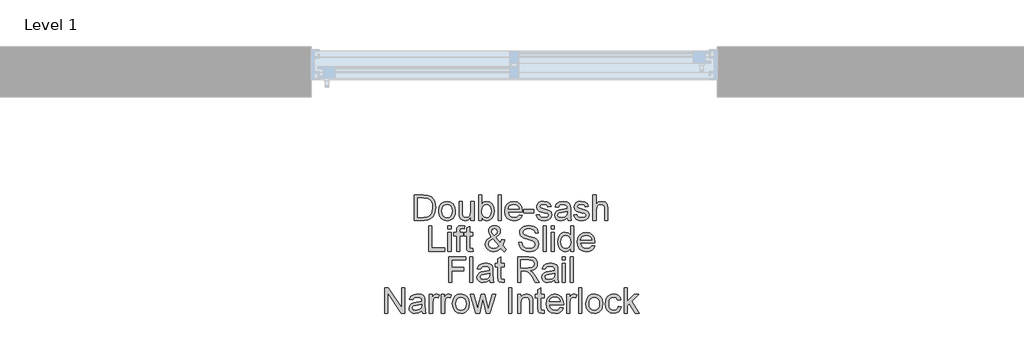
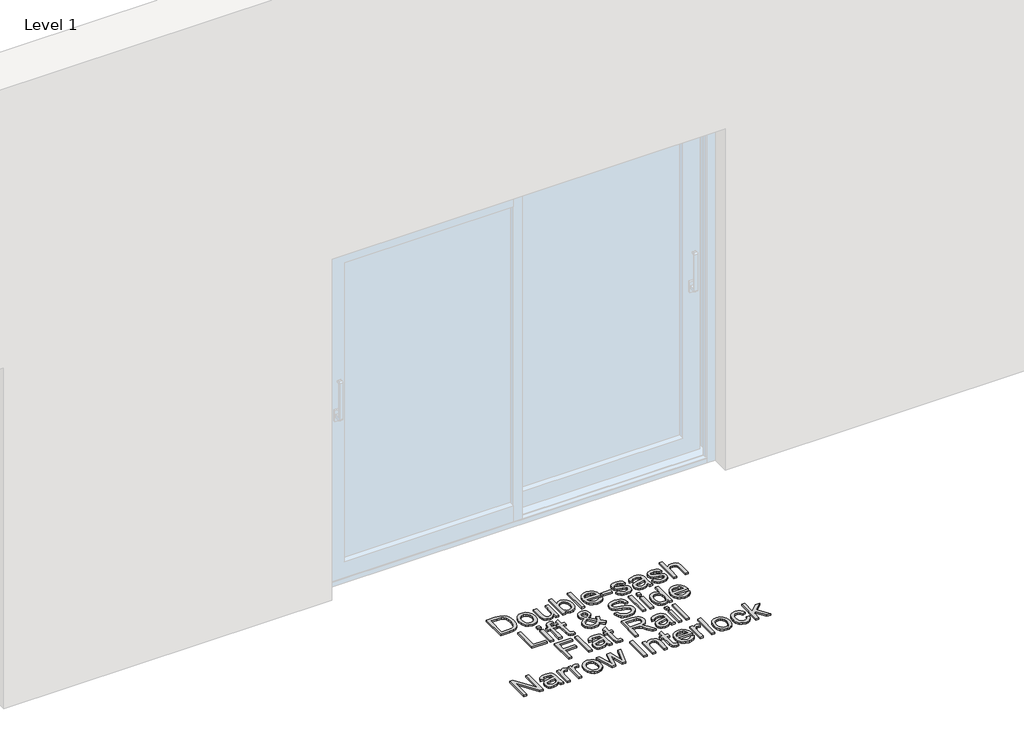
# One storey, part 2 of 7: 1 proxy.
"""IFC4 building model written with IfcOpenShell, lengths in millimetres."""

from ifc_helpers import new_model, si_unit, origin, origin_with_axes, place, context, project, spatial, polyline, outline, extrude, element, save

model = new_model("IFC4")

# Units and contexts
model_context = context("Model", 3, world=origin())
ifc_project = project(units=[si_unit("LENGTHUNIT", "METRE", prefix="MILLI")], contexts=[model_context])

# Site, building, storey
site = spatial("IfcSite", under=ifc_project)
building = spatial("IfcBuilding", under=site)
storey = spatial("IfcBuildingStorey", under=building, Name="Level 1", Elevation=0.0)

# Proxy
placement = place(None, origin())
element("IfcBuildingElementProxy", 1, Name="150mm Arial", ObjectType="150mm Arial", at=placement, inside=storey, context=model_context, shape_type="SweptSolid", body=[
    extrude(outline(polyline([(-1811.5990485, -897.6627533), (-1811.5990485, -746.9782881), (-1759.6173226, -746.9782881), (-1732.7251487, -749.1487919), (-1710.5786526, -759.9277343), (-1700.1583951, -771.4056526), (-1692.7363758, -785.679474), (-1688.2942007, -802.4732871), (-1686.8134757, -821.5111803), (-1690.8233895, -851.9166272), (-1701.1240853, -873.8607883), (-1714.8828719, -887.5276044), (-1732.8906956, -895.0875794), (-1757.115725, -897.6627533), (-1811.5990485, -897.6627533)]), holes=[polyline([(-1792.7634903, -878.8271952), (-1759.4333816, -878.8271952), (-1735.1899581, -876.1048684), (-1721.2104423, -868.4161347), (-1709.7509181, -849.7093353), (-1705.6490339, -821.2168747), (-1707.6585893, -800.6890594), (-1713.6872555, -785.5323212), (-1722.5945983, -775.1212607), (-1733.2401835, -768.8304786), (-1759.9484164, -765.8138463), (-1792.7634903, -765.8138463), (-1792.7634903, -878.8271952)])]), origin_with_axes(), (0.0, 0.0, 1.0), 10.0),
    extrude(outline(polyline([(-1667.9779176, -842.3333013), (-1663.9036245, -815.6526596), (-1651.6807452, -796.8998749), (-1636.5791893, -787.712022), (-1618.4977892, -784.6494044), (-1598.7103364, -788.3788081), (-1582.9052062, -799.5670193), (-1572.5447295, -817.3311212), (-1569.0912373, -840.7881969), (-1570.6179475, -859.8168931), (-1575.1980784, -874.3022466), (-1582.6982726, -885.150167), (-1592.9851728, -893.2665635), (-1605.2034536, -898.3295395), (-1618.4977892, -900.0171981), (-1638.5243653, -896.30159), (-1654.3111014, -885.1547655), (-1664.5612135, -867.0181831), (-1667.9779176, -842.3333013)]), holes=[polyline([(-1649.1423594, -842.2965131), (-1646.9626586, -859.343245), (-1640.4235561, -871.4879494), (-1630.5827127, -878.7582173), (-1618.4977892, -881.18164), (-1606.468048, -878.7444217), (-1596.6455987, -871.4327671), (-1590.1064962, -859.1271143), (-1587.9267954, -841.7079019), (-1590.1202918, -825.1578106), (-1596.700781, -813.1786531), (-1606.5370258, -805.9083852), (-1618.4977892, -803.4849626), (-1630.5827127, -805.8991882), (-1640.4235561, -813.141865), (-1646.9626586, -825.2589782), (-1649.1423594, -842.2965131)])]), origin_with_axes(), (0.0, 0.0, 1.0), 10.0),
    extrude(outline(polyline([(-1477.2678913, -897.6627533), (-1477.2678913, -878.6432542), (-1492.0199593, -894.6737121), (-1511.2601876, -900.0171981), (-1528.9737057, -896.2648018), (-1541.1873879, -886.8470227), (-1546.7975883, -872.9778715), (-1547.9012343, -855.4666885), (-1547.9012343, -787.0038492), (-1529.0656762, -787.0038492), (-1529.0656762, -846.6007324), (-1527.925242, -865.8041726), (-1520.4756316, -877.0797557), (-1506.4409335, -881.18164), (-1490.7139782, -876.9877852), (-1480.3213118, -865.5650493), (-1477.2678913, -844.5773814), (-1477.2678913, -787.0038492), (-1458.4323331, -787.0038492), (-1458.4323331, -897.6627533), (-1477.2678913, -897.6627533)])), origin_with_axes(), (0.0, 0.0, 1.0), 10.0),
    extrude(outline(polyline([(-1413.6978825, -897.6627533), (-1432.5334406, -897.6627533), (-1432.5334406, -746.9782881), (-1413.6978825, -746.9782881), (-1413.6978825, -802.8595632), (-1400.509313, -789.2019441), (-1384.1201701, -784.6494044), (-1365.2478237, -788.7512887), (-1350.6061203, -800.2843892), (-1341.6114055, -818.2186365), (-1338.3556499, -840.6778323), (-1341.7263687, -865.8225667), (-1351.838525, -884.5293661), (-1366.677965, -896.1452401), (-1384.2305347, -900.0171981), (-1400.9783625, -895.0232), (-1413.6978825, -880.0412058), (-1413.6978825, -897.6627533)]), holes=[polyline([(-1413.6978825, -841.5607491), (-1412.4102955, -857.2693103), (-1408.5475346, -867.9010999), (-1398.6791, -877.861505), (-1385.8492155, -881.18164), (-1374.9783025, -878.7352247), (-1365.6892821, -871.3959789), (-1359.3157266, -859.2098878), (-1357.191208, -842.2229367), (-1359.2283546, -824.9876652), (-1365.3397942, -812.9395299), (-1374.3391075, -805.8486044), (-1385.0398751, -803.4849626), (-1395.910788, -805.9313778), (-1405.1998084, -813.2706236), (-1411.573364, -825.2359855), (-1413.6978825, -841.5607491)])]), origin_with_axes(), (0.0, 0.0, 1.0), 10.0),
    extrude(outline(polyline([(-1317.165647, -897.6627533), (-1317.165647, -746.9782881), (-1298.3300888, -746.9782881), (-1298.3300888, -897.6627533), (-1317.165647, -897.6627533)])), origin_with_axes(), (0.0, 0.0, 1.0), 10.0),
    extrude(outline(polyline([(-1192.6008034, -864.7005266), (-1174.1331272, -867.0549713), (-1180.7871928, -880.9701078), (-1191.4051869, -891.3719712), (-1205.7479862, -897.8558914), (-1223.5764674, -900.0171981), (-1245.6769782, -896.2877944), (-1262.6823235, -885.0995832), (-1273.5256453, -867.1791315), (-1277.1400859, -843.2530063), (-1273.4888571, -818.5221391), (-1262.5351707, -800.0268718), (-1245.7597517, -788.4937713), (-1224.6433252, -784.6494044), (-1204.1844877, -788.4845742), (-1187.8367316, -799.9900836), (-1177.1175699, -818.4485627), (-1173.544516, -843.1426417), (-1173.6548806, -848.2194132), (-1258.3045277, -848.2194132), (-1255.0441735, -862.3184907), (-1247.470403, -872.6835659), (-1236.5397092, -879.0571214), (-1223.2085854, -881.18164), (-1204.7409092, -877.2453026), (-1192.6008034, -864.7005266)]), holes=[polyline([(-1258.3045277, -829.383855), (-1192.3800742, -829.383855), (-1194.927657, -819.4326471), (-1199.9216551, -812.3141305), (-1210.9029326, -805.6922545), (-1224.7169016, -803.4849626), (-1237.4134289, -805.2461976), (-1247.9118614, -810.5299028), (-1255.2097204, -818.765861), (-1258.3045277, -829.383855)])]), origin_with_axes(), (0.0, 0.0, 1.0), 10.0),
    extrude(outline(polyline([(-1164.126737, -852.9283027), (-1164.126737, -834.0927446), (-1105.2656177, -834.0927446), (-1105.2656177, -852.9283027), (-1164.126737, -852.9283027)])), origin_with_axes(), (0.0, 0.0, 1.0), 10.0),
    extrude(outline(polyline([(-1091.1389491, -864.7005266), (-1072.303391, -862.3460818), (-1069.3327439, -870.4026975), (-1063.5845877, -876.3255976), (-1043.6085953, -881.18164), (-1024.4051552, -876.7302678), (-1018.1511613, -866.2824192), (-1019.7238568, -861.4815591), (-1024.4419434, -857.8211333), (-1043.8293245, -852.4500561), (-1072.1930264, -843.2346122), (-1084.5722555, -832.4740638), (-1088.7845044, -817.2805374), (-1085.39999, -803.2458393), (-1076.1661519, -792.5220791), (-1064.191593, -786.9486669), (-1047.9863911, -784.6494044), (-1025.0673428, -788.3466185), (-1010.4992158, -798.3530087), (-1004.0244927, -815.2571864), (-1022.8600508, -817.6116312), (-1029.9417792, -807.2189648), (-1046.5148631, -803.4849626), (-1064.5410809, -807.0534179), (-1069.9489462, -815.367551), (-1067.704866, -820.8489927), (-1060.6783199, -825.0060593), (-1044.4547239, -829.015973), (-1016.808392, -837.8819291), (-1003.9693104, -847.9251076), (-999.3156031, -864.2958564), (-1004.7786508, -882.3220741), (-1020.5423942, -895.4002791), (-1043.8661127, -900.0171981), (-1062.8580207, -897.791512), (-1076.7179749, -891.1144538), (-1085.9702071, -880.0595999), (-1091.1389491, -864.7005266)])), origin_with_axes(), (0.0, 0.0, 1.0), 10.0),
    extrude(outline(polyline([(-907.4922571, -883.5360847), (-925.7575982, -896.30159), (-945.9359256, -900.0171981), (-961.6766765, -897.782315), (-973.287952, -891.0776656), (-980.4478553, -880.8965314), (-982.8344897, -868.2321937), (-979.2292462, -853.3329729), (-969.7562848, -842.5172423), (-956.5677153, -836.3368247), (-940.2705429, -833.5041334), (-907.6026217, -827.0294103), (-907.4922571, -822.8355555), (-908.7890412, -814.4294519), (-912.6793933, -808.9296161), (-921.3798024, -804.846126), (-933.5015142, -803.4849626), (-952.5578015, -807.1086002), (-961.6444868, -819.966076), (-980.480045, -817.6116312), (-972.3314588, -799.2175314), (-955.9239218, -788.438589), (-931.073493, -784.6494044), (-908.2464152, -787.9971306), (-895.3521513, -796.4032342), (-889.576404, -809.1871335), (-888.656699, -825.6682469), (-888.656699, -849.10233), (-887.7002058, -881.8254334), (-883.9478094, -897.6627533), (-902.7833676, -897.6627533), (-907.4922571, -883.5360847)]), holes=[polyline([(-907.4922571, -845.8649684), (-937.8793099, -851.6407157), (-954.0845118, -854.6941363), (-961.4237576, -859.6605432), (-963.9989316, -866.9078185), (-958.3887312, -877.0981498), (-941.9260119, -881.18164), (-922.8697245, -876.6750855), (-910.5824659, -865.7673844), (-907.6026217, -851.1992574), (-907.4922571, -845.8649684)])]), origin_with_axes(), (0.0, 0.0, 1.0), 10.0),
    extrude(outline(polyline([(-869.8211408, -864.7005266), (-850.9855827, -862.3460818), (-848.0149356, -870.4026975), (-842.2667794, -876.3255976), (-822.290787, -881.18164), (-803.0873469, -876.7302678), (-796.833353, -866.2824192), (-798.4060485, -861.4815591), (-803.1241351, -857.8211333), (-822.5115162, -852.4500561), (-850.8752181, -843.2346122), (-863.2544472, -832.4740638), (-867.4666961, -817.2805374), (-864.0821817, -803.2458393), (-854.8483436, -792.5220791), (-842.8737847, -786.9486669), (-826.6685828, -784.6494044), (-803.7495345, -788.3466185), (-789.1814075, -798.3530087), (-782.7066844, -815.2571864), (-801.5422425, -817.6116312), (-808.6239709, -807.2189648), (-825.1970548, -803.4849626), (-843.2232726, -807.0534179), (-848.6311379, -815.367551), (-846.3870577, -820.8489927), (-839.3605116, -825.0060593), (-823.1369156, -829.015973), (-795.4905837, -837.8819291), (-782.6515021, -847.9251076), (-777.9977948, -864.2958564), (-783.4608425, -882.3220741), (-799.2245859, -895.4002791), (-822.5483044, -900.0171981), (-841.5402124, -897.791512), (-855.4001666, -891.1144538), (-864.6523988, -880.0595999), (-869.8211408, -864.7005266)])), origin_with_axes(), (0.0, 0.0, 1.0), 10.0),
    extrude(outline(polyline([(-756.8077919, -897.6627533), (-756.8077919, -746.9782881), (-737.9722338, -746.9782881), (-737.9722338, -802.3813166), (-723.2845451, -789.0823825), (-705.193948, -784.6494044), (-684.0407333, -789.4870527), (-671.2016516, -802.8595632), (-667.3388907, -827.6180215), (-667.3388907, -897.6627533), (-686.1744488, -897.6627533), (-686.1744488, -829.567796), (-687.673568, -817.7771781), (-692.1709254, -809.7021683), (-699.4182007, -805.039264), (-709.1670735, -803.4849626), (-724.5997232, -807.6788173), (-734.9004191, -819.046371), (-737.9722338, -838.8752105), (-737.9722338, -897.6627533), (-756.8077919, -897.6627533)])), origin_with_axes(), (0.0, 0.0, 1.0), 10.0),
    extrude(outline(polyline([(-1726.8390368, -1080.6249801), (-1726.8390368, -929.9405149), (-1708.0034786, -929.9405149), (-1708.0034786, -1061.789422), (-1632.661246, -1061.789422), (-1632.661246, -1080.6249801), (-1726.8390368, -1080.6249801)])), origin_with_axes(), (0.0, 0.0, 1.0), 10.0),
    extrude(outline(polyline([(-1613.8256879, -948.776073), (-1613.8256879, -929.9405149), (-1594.9901297, -929.9405149), (-1594.9901297, -948.776073), (-1613.8256879, -948.776073)])), origin_with_axes(), (0.0, 0.0, 1.0), 10.0),
    extrude(outline(polyline([(-1613.8256879, -1080.6249801), (-1613.8256879, -969.966076), (-1594.9901297, -969.966076), (-1594.9901297, -1080.6249801), (-1613.8256879, -1080.6249801)])), origin_with_axes(), (0.0, 0.0, 1.0), 10.0),
    extrude(outline(polyline([(-1562.0279029, -1080.6249801), (-1562.0279029, -988.8016341), (-1578.5090163, -988.8016341), (-1578.5090163, -969.966076), (-1562.0279029, -969.966076), (-1562.0279029, -958.8192515), (-1560.0413402, -943.1106903), (-1550.4028319, -931.8902895), (-1531.4201209, -927.5860701), (-1514.2400318, -929.6462093), (-1516.9991467, -947.3045451), (-1527.8516656, -946.4216283), (-1539.7158599, -949.5486252), (-1543.1923448, -961.2104845), (-1543.1923448, -969.966076), (-1522.0023419, -969.966076), (-1522.0023419, -988.8016341), (-1543.1923448, -988.8016341), (-1543.1923448, -1080.6249801), (-1562.0279029, -1080.6249801)])), origin_with_axes(), (0.0, 0.0, 1.0), 10.0),
    extrude(outline(polyline([(-1465.4956674, -1064.9164189), (-1463.1412226, -1081.1768031), (-1477.2311031, -1082.9794249), (-1493.0132407, -1079.8524279), (-1500.8859153, -1071.6486594), (-1503.1667837, -1050.2747155), (-1503.1667837, -988.8016341), (-1517.2934523, -988.8016341), (-1517.2934523, -969.966076), (-1503.1667837, -969.966076), (-1503.1667837, -943.0739021), (-1484.3312256, -932.0006541), (-1484.3312256, -969.966076), (-1465.4956674, -969.966076), (-1465.4956674, -988.8016341), (-1484.3312256, -988.8016341), (-1484.3312256, -1049.7228925), (-1483.3379442, -1059.4349772), (-1480.1189767, -1062.8746738), (-1473.6994359, -1064.1438667), (-1465.4956674, -1064.9164189)])), origin_with_axes(), (0.0, 0.0, 1.0), 10.0),
    extrude(outline(polyline([(-1301.3835094, -1062.0101512), (-1321.3595017, -1077.7371064), (-1344.7200084, -1082.9794249), (-1365.5053411, -1079.0982698), (-1381.5082079, -1067.4548047), (-1389.7579617, -1054.054703), (-1392.5078796, -1039.1646793), (-1390.2959891, -1025.9669127), (-1383.6603176, -1014.1119154), (-1372.6284563, -1003.6088844), (-1357.2279962, -994.4670168), (-1370.3797776, -975.4107295), (-1373.6723214, -961.2840609), (-1371.0787533, -948.5645409), (-1363.2980492, -937.6292486), (-1351.5902047, -930.0968647), (-1337.2152157, -927.5860701), (-1323.5392025, -929.9865001), (-1312.6039102, -937.1877902), (-1305.4302113, -947.7552005), (-1303.0389783, -960.2539913), (-1304.8094104, -970.7478252), (-1310.1207067, -980.4507128), (-1331.365892, -997.4836492), (-1304.1058361, -1031.4391574), (-1295.975644, -1010.5802482), (-1277.1400859, -1014.6637384), (-1290.4574141, -1045.6761906), (-1267.7223068, -1068.4848743), (-1281.8489754, -1082.9794249), (-1301.3835094, -1062.0101512)]), holes=[polyline([(-1340.8940356, -985.6010608), (-1325.4062036, -973.9208074), (-1321.8745365, -962.8291653), (-1326.5282437, -951.0017591), (-1338.1717089, -946.4216283), (-1350.0726914, -950.9649709), (-1354.8367633, -962.0566131), (-1353.2180825, -968.9544005), (-1348.3252519, -976.6247401), (-1340.8940356, -985.6010608)]), polyline([(-1314.0018618, -1048.4353055), (-1347.6262762, -1006.4599699), (-1368.3196384, -1022.2421075), (-1373.6723214, -1036.6630817), (-1371.8421085, -1045.5474319), (-1366.3514697, -1054.7628758), (-1357.5039077, -1061.798619), (-1345.6029252, -1064.1438667), (-1328.2940773, -1059.766071), (-1314.0018618, -1048.4353055)])]), origin_with_axes(), (0.0, 0.0, 1.0), 10.0),
    extrude(outline(polyline([(-1194.734519, -1028.8271952), (-1175.8989608, -1028.8271952), (-1169.8289079, -1047.6811474), (-1155.0032635, -1059.6005241), (-1132.415309, -1064.1438667), (-1112.7336222, -1060.7041701), (-1100.0232993, -1051.2496028), (-1095.8478387, -1038.6128563), (-1098.9748356, -1026.8590265), (-1111.777129, -1018.3057701), (-1139.2027318, -1011.1136771), (-1168.7252619, -1001.8246567), (-1184.7465228, -987.8083527), (-1190.0256294, -969.0831592), (-1188.3931531, -958.0512978), (-1183.495724, -947.7643976), (-1175.4621009, -939.0455943), (-1164.4210426, -932.7180239), (-1136.4987991, -927.5860701), (-1106.7003575, -932.9571472), (-1095.2776216, -939.5882202), (-1086.8347298, -948.7392848), (-1081.4912438, -959.840124), (-1079.3667253, -972.3205207), (-1098.2022834, -972.3205207), (-1101.6603742, -961.0817258), (-1108.8708613, -952.9699278), (-1120.1372474, -948.0587031), (-1135.7630351, -946.4216283), (-1151.7567049, -948.040309), (-1162.7287854, -952.8963514), (-1169.0747498, -960.0424591), (-1171.1900713, -968.5313362), (-1169.6909521, -975.7694144), (-1165.1935947, -981.591147), (-1134.43866, -992.1125721), (-1101.1085512, -1001.5671393), (-1090.3709955, -1008.4005474), (-1082.8799983, -1016.8342421), (-1078.47921, -1026.7762531), (-1077.0122805, -1038.1346097), (-1078.6999392, -1049.7458851), (-1083.7629151, -1060.6673819), (-1091.9942748, -1070.0667668), (-1103.1870845, -1077.1117071), (-1116.646967, -1081.5124954), (-1131.679545, -1082.9794249), (-1150.1334256, -1081.3975323), (-1165.3223534, -1076.6518546), (-1177.4210726, -1068.7239976), (-1186.6043269, -1057.5955672), (-1192.4996358, -1044.0391157), (-1194.734519, -1028.8271952)])), origin_with_axes(), (0.0, 0.0, 1.0), 10.0),
    extrude(outline(polyline([(-1051.113388, -1080.6249801), (-1051.113388, -929.9405149), (-1032.2778299, -929.9405149), (-1032.2778299, -1080.6249801), (-1051.113388, -1080.6249801)])), origin_with_axes(), (0.0, 0.0, 1.0), 10.0),
    extrude(outline(polyline([(-1004.0244927, -948.776073), (-1004.0244927, -929.9405149), (-985.1889345, -929.9405149), (-985.1889345, -948.776073), (-1004.0244927, -948.776073)])), origin_with_axes(), (0.0, 0.0, 1.0), 10.0),
    extrude(outline(polyline([(-1004.0244927, -1080.6249801), (-1004.0244927, -969.966076), (-985.1889345, -969.966076), (-985.1889345, -1080.6249801), (-1004.0244927, -1080.6249801)])), origin_with_axes(), (0.0, 0.0, 1.0), 10.0),
    extrude(outline(polyline([(-888.656699, -1080.6249801), (-888.656699, -1062.8562797), (-901.1187016, -1077.9486386), (-918.344776, -1082.9794249), (-930.52167, -1081.158409), (-941.6684945, -1075.6953614), (-951.1046677, -1066.9719596), (-958.1496079, -1055.3698811), (-962.5366007, -1041.3581756), (-963.9989316, -1025.4058926), (-958.6094604, -995.42351), (-951.8772198, -983.5317245), (-942.4594408, -974.7853301), (-931.0688945, -969.4050559), (-918.4183524, -967.6116312), (-901.0543222, -972.743585), (-888.656699, -986.0793073), (-888.656699, -929.9405149), (-869.8211408, -929.9405149), (-869.8211408, -1080.6249801), (-888.656699, -1080.6249801)]), holes=[polyline([(-945.1633734, -1025.3323162), (-943.0388549, -1042.3698511), (-936.6652993, -1054.4869644), (-927.4038701, -1061.7296411), (-916.6157306, -1064.1438667), (-905.8321896, -1061.8400057), (-896.8052852, -1054.9284227), (-890.6938455, -1043.2803591), (-888.656699, -1026.767056), (-890.7306337, -1008.7132471), (-896.952438, -996.1960622), (-906.2092687, -988.8844076), (-917.3882828, -986.4471893), (-928.2867869, -988.7878385), (-937.2171223, -995.8097861), (-943.1768107, -1007.871717), (-945.1633734, -1025.3323162)])]), origin_with_axes(), (0.0, 0.0, 1.0), 10.0),
    extrude(outline(polyline([(-764.0918554, -1047.6627533), (-745.6241792, -1050.0171981), (-752.2782448, -1063.9323346), (-762.8962389, -1074.334198), (-777.2390382, -1080.8181182), (-795.0675194, -1082.9794249), (-817.1680303, -1079.2500212), (-834.1733755, -1068.06181), (-845.0166973, -1050.1413583), (-848.6311379, -1026.215233), (-844.9799091, -1001.4843659), (-834.0262227, -982.9890986), (-817.2508037, -971.455998), (-796.1343772, -967.6116312), (-775.6755397, -971.446801), (-759.3277836, -982.9523104), (-748.6086219, -1001.4107895), (-745.0355681, -1026.1048684), (-745.1459327, -1031.18164), (-829.7955797, -1031.18164), (-826.5352256, -1045.2807174), (-818.961455, -1055.6457926), (-808.0307612, -1062.0193482), (-794.6996374, -1064.1438667), (-776.2319612, -1060.2075294), (-764.0918554, -1047.6627533)]), holes=[polyline([(-829.7955797, -1012.3460818), (-763.8711262, -1012.3460818), (-766.418709, -1002.3948738), (-771.4127071, -995.2763572), (-782.3939847, -988.6544813), (-796.2079536, -986.4471893), (-808.9044809, -988.2084244), (-819.4029134, -993.4921296), (-826.7007725, -1001.7280877), (-829.7955797, -1012.3460818)])]), origin_with_axes(), (0.0, 0.0, 1.0), 10.0),
    extrude(outline(polyline([(-1609.1167983, -1263.5872069), (-1609.1167983, -1112.9027417), (-1507.8756733, -1112.9027417), (-1507.8756733, -1131.7382998), (-1590.2812402, -1131.7382998), (-1590.2812402, -1176.4727504), (-1519.6478971, -1176.4727504), (-1519.6478971, -1195.3083086), (-1590.2812402, -1195.3083086), (-1590.2812402, -1263.5872069), (-1609.1167983, -1263.5872069)])), origin_with_axes(), (0.0, 0.0, 1.0), 10.0),
    extrude(outline(polyline([(-1484.3312256, -1263.5872069), (-1484.3312256, -1112.9027417), (-1465.4956674, -1112.9027417), (-1465.4956674, -1263.5872069), (-1484.3312256, -1263.5872069)])), origin_with_axes(), (0.0, 0.0, 1.0), 10.0),
    extrude(outline(polyline([(-1366.6089871, -1249.4605383), (-1384.8743282, -1262.2260435), (-1405.0526556, -1265.9416516), (-1420.7934065, -1263.7067685), (-1432.4046819, -1257.0021192), (-1439.5645853, -1246.8209849), (-1441.9512197, -1234.1566473), (-1438.3459762, -1219.2574265), (-1428.8730148, -1208.4416958), (-1415.6844453, -1202.2612783), (-1399.3872729, -1199.4285869), (-1366.7193517, -1192.9538638), (-1366.6089871, -1188.7600091), (-1367.9057711, -1180.3539055), (-1371.7961232, -1174.8540696), (-1380.4965324, -1170.7705795), (-1392.6182442, -1169.4094161), (-1411.6745315, -1173.0330538), (-1420.7612168, -1185.8905295), (-1439.596775, -1183.5360847), (-1431.4481888, -1165.141985), (-1415.0406518, -1154.3630425), (-1390.190223, -1150.573858), (-1367.3631452, -1153.9215841), (-1354.4688813, -1162.3276877), (-1348.6931339, -1175.111587), (-1347.773429, -1191.5927004), (-1347.773429, -1215.0267835), (-1346.8169358, -1247.749887), (-1343.0645394, -1263.5872069), (-1361.9000976, -1263.5872069), (-1366.6089871, -1249.4605383)]), holes=[polyline([(-1366.6089871, -1211.789422), (-1396.9960399, -1217.5651693), (-1413.2012418, -1220.6185898), (-1420.5404876, -1225.5849968), (-1423.1156616, -1232.8322721), (-1417.5054611, -1243.0226033), (-1401.0427419, -1247.1060935), (-1381.9864545, -1242.5995391), (-1369.6991959, -1231.6918379), (-1366.7193517, -1217.1237109), (-1366.6089871, -1211.789422)])]), origin_with_axes(), (0.0, 0.0, 1.0), 10.0),
    extrude(outline(polyline([(-1281.8489754, -1247.8786457), (-1279.4945307, -1264.1390299), (-1293.5844111, -1265.9416516), (-1309.3665487, -1262.8146547), (-1317.2392234, -1254.6108862), (-1319.5200917, -1233.2369423), (-1319.5200917, -1171.7638609), (-1333.6467603, -1171.7638609), (-1333.6467603, -1152.9283027), (-1319.5200917, -1152.9283027), (-1319.5200917, -1126.0361289), (-1300.6845336, -1114.9628808), (-1300.6845336, -1152.9283027), (-1281.8489754, -1152.9283027), (-1281.8489754, -1171.7638609), (-1300.6845336, -1171.7638609), (-1300.6845336, -1232.6851193), (-1299.6912522, -1242.397204), (-1296.4722847, -1245.8369006), (-1290.0527439, -1247.1060935), (-1281.8489754, -1247.8786457)])), origin_with_axes(), (0.0, 0.0, 1.0), 10.0),
    extrude(outline(polyline([(-1201.7978533, -1263.5872069), (-1201.7978533, -1112.9027417), (-1136.8666811, -1112.9027417), (-1106.7187516, -1116.9678377), (-1097.4389283, -1122.5964322), (-1090.2376382, -1131.3520237), (-1085.6161207, -1142.2091411), (-1084.0756148, -1154.1423133), (-1086.6277962, -1168.9863518), (-1094.2843402, -1181.2920046), (-1107.2751731, -1190.3143105), (-1125.8302213, -1195.3083086), (-1115.1248552, -1203.3649243), (-1099.8577524, -1222.7523054), (-1074.7314121, -1263.5872069), (-1096.6203908, -1263.5872069), (-1116.2285012, -1232.3540255), (-1130.391958, -1211.6790574), (-1140.343166, -1201.9117904), (-1149.3010926, -1198.3249409), (-1160.2271878, -1197.6627533), (-1182.9622951, -1197.6627533), (-1182.9622951, -1263.5872069), (-1201.7978533, -1263.5872069)]), holes=[polyline([(-1182.9622951, -1178.8271952), (-1140.8030185, -1178.8271952), (-1119.3003159, -1176.1600507), (-1107.0866336, -1167.6251884), (-1102.911173, -1154.8412891), (-1104.9023343, -1145.6534363), (-1110.8758182, -1138.2498111), (-1121.1535214, -1133.3661776), (-1136.0573407, -1131.7382998), (-1182.9622951, -1131.7382998), (-1182.9622951, -1178.8271952)])]), origin_with_axes(), (0.0, 0.0, 1.0), 10.0),
    extrude(outline(polyline([(-982.8344897, -1249.4605383), (-1001.0998308, -1262.2260435), (-1021.2781582, -1265.9416516), (-1037.0189091, -1263.7067685), (-1048.6301846, -1257.0021192), (-1055.7900879, -1246.8209849), (-1058.1767224, -1234.1566473), (-1054.5714788, -1219.2574265), (-1045.0985174, -1208.4416958), (-1031.9099479, -1202.2612783), (-1015.6127755, -1199.4285869), (-982.9448543, -1192.9538638), (-982.8344897, -1188.7600091), (-984.1312738, -1180.3539055), (-988.0216259, -1174.8540696), (-996.7220351, -1170.7705795), (-1008.8437468, -1169.4094161), (-1027.9000341, -1173.0330538), (-1036.9867194, -1185.8905295), (-1055.8222776, -1183.5360847), (-1047.6736914, -1165.141985), (-1031.2661544, -1154.3630425), (-1006.4157256, -1150.573858), (-983.5886478, -1153.9215841), (-970.6943839, -1162.3276877), (-964.9186366, -1175.111587), (-963.9989316, -1191.5927004), (-963.9989316, -1215.0267835), (-963.0424384, -1247.749887), (-959.290042, -1263.5872069), (-978.1256002, -1263.5872069), (-982.8344897, -1249.4605383)]), holes=[polyline([(-982.8344897, -1211.789422), (-1013.2215425, -1217.5651693), (-1029.4267444, -1220.6185898), (-1036.7659902, -1225.5849968), (-1039.3411642, -1232.8322721), (-1033.7309638, -1243.0226033), (-1017.2682445, -1247.1060935), (-998.2119571, -1242.5995391), (-985.9246985, -1231.6918379), (-982.9448543, -1217.1237109), (-982.8344897, -1211.789422)])]), origin_with_axes(), (0.0, 0.0, 1.0), 10.0),
    extrude(outline(polyline([(-938.1000391, -1131.7382998), (-938.1000391, -1112.9027417), (-919.264481, -1112.9027417), (-919.264481, -1131.7382998), (-938.1000391, -1131.7382998)])), origin_with_axes(), (0.0, 0.0, 1.0), 10.0),
    extrude(outline(polyline([(-938.1000391, -1263.5872069), (-938.1000391, -1152.9283027), (-919.264481, -1152.9283027), (-919.264481, -1263.5872069), (-938.1000391, -1263.5872069)])), origin_with_axes(), (0.0, 0.0, 1.0), 10.0),
    extrude(outline(polyline([(-891.0111437, -1263.5872069), (-891.0111437, -1112.9027417), (-872.1755856, -1112.9027417), (-872.1755856, -1263.5872069), (-891.0111437, -1263.5872069)])), origin_with_axes(), (0.0, 0.0, 1.0), 10.0),
    extrude(outline(polyline([(-1987.0051838, -1446.5494336), (-1987.0051838, -1295.8649684), (-1966.8452504, -1295.8649684), (-1888.1185035, -1415.2426759), (-1888.1185035, -1295.8649684), (-1869.2829453, -1295.8649684), (-1869.2829453, -1446.5494336), (-1889.4428787, -1446.5494336), (-1968.1696256, -1327.134938), (-1968.1696256, -1446.5494336), (-1987.0051838, -1446.5494336)])), origin_with_axes(), (0.0, 0.0, 1.0), 10.0),
    extrude(outline(polyline([(-1768.0418202, -1432.422765), (-1786.3071613, -1445.1882703), (-1806.4854887, -1448.9038784), (-1822.2262396, -1446.6689953), (-1833.8375151, -1439.9643459), (-1840.9974184, -1429.7832117), (-1843.3840529, -1417.118874), (-1839.7788093, -1402.2196532), (-1830.3058479, -1391.4039226), (-1817.1172784, -1385.223505), (-1800.820106, -1382.3908137), (-1768.1521848, -1375.9160906), (-1768.0418202, -1371.7222358), (-1769.3386043, -1363.3161322), (-1773.2289564, -1357.8162964), (-1781.9293656, -1353.7328063), (-1794.0510773, -1352.3716429), (-1813.1073647, -1355.9952805), (-1822.1940499, -1368.8527563), (-1841.0296081, -1366.4983115), (-1832.8810219, -1348.1042117), (-1816.4734849, -1337.3252693), (-1791.6230561, -1333.5360847), (-1768.7959783, -1336.8838109), (-1755.9017144, -1345.2899145), (-1750.1259671, -1358.0738138), (-1749.2062621, -1374.5549272), (-1749.2062621, -1397.9890103), (-1748.2497689, -1430.7121138), (-1744.4973726, -1446.5494336), (-1763.3329307, -1446.5494336), (-1768.0418202, -1432.422765)]), holes=[polyline([(-1768.0418202, -1394.7516487), (-1798.428873, -1400.527396), (-1814.6340749, -1403.5808166), (-1821.9733207, -1408.5472235), (-1824.5484947, -1415.7944988), (-1818.9382943, -1425.9848301), (-1802.475575, -1430.0683203), (-1783.4192876, -1425.5617658), (-1771.132029, -1414.6540647), (-1768.1521848, -1400.0859377), (-1768.0418202, -1394.7516487)])]), origin_with_axes(), (0.0, 0.0, 1.0), 10.0),
    extrude(outline(polyline([(-1723.3073696, -1446.5494336), (-1723.3073696, -1335.8905295), (-1706.8262562, -1335.8905295), (-1706.8262562, -1352.2612783), (-1695.1276088, -1337.1781165), (-1683.355385, -1333.5360847), (-1664.4462504, -1339.3486203), (-1670.7370325, -1356.2344038), (-1683.9807843, -1352.3716429), (-1694.6309681, -1356.087251), (-1701.4183909, -1366.3879469), (-1704.4718115, -1388.3872902), (-1704.4718115, -1446.5494336), (-1723.3073696, -1446.5494336)])), origin_with_axes(), (0.0, 0.0, 1.0), 10.0),
    extrude(outline(polyline([(-1652.6740266, -1446.5494336), (-1652.6740266, -1335.8905295), (-1636.1929132, -1335.8905295), (-1636.1929132, -1352.2612783), (-1624.4942657, -1337.1781165), (-1612.7220419, -1333.5360847), (-1593.8129073, -1339.3486203), (-1600.1036894, -1356.2344038), (-1613.3474413, -1352.3716429), (-1623.997625, -1356.087251), (-1630.7850478, -1366.3879469), (-1633.8384684, -1388.3872902), (-1633.8384684, -1446.5494336), (-1652.6740266, -1446.5494336)])), origin_with_axes(), (0.0, 0.0, 1.0), 10.0),
    extrude(outline(polyline([(-1586.749573, -1391.2199816), (-1582.6752799, -1364.5393399), (-1570.4524006, -1345.7865552), (-1555.3508447, -1336.5987023), (-1537.2694447, -1333.5360847), (-1517.4819919, -1337.2654885), (-1501.6768616, -1348.4536996), (-1491.3163849, -1366.2178015), (-1487.8628927, -1389.6748772), (-1489.389603, -1408.7035734), (-1493.9697338, -1423.188927), (-1501.469928, -1434.0368473), (-1511.7568283, -1442.1532438), (-1523.9751091, -1447.2162198), (-1537.2694447, -1448.9038784), (-1557.2960208, -1445.1882703), (-1573.0827569, -1434.0414458), (-1583.332869, -1415.9048634), (-1586.749573, -1391.2199816)]), holes=[polyline([(-1567.9140149, -1391.1831934), (-1565.734314, -1408.2299253), (-1559.1952116, -1420.3746297), (-1549.3543682, -1427.6448976), (-1537.2694447, -1430.0683203), (-1525.2397034, -1427.631102), (-1515.4172542, -1420.3194474), (-1508.8781517, -1408.0137947), (-1506.6984509, -1390.5945822), (-1508.8919473, -1374.0444909), (-1515.4724365, -1362.0653335), (-1525.3086813, -1354.7950655), (-1537.2694447, -1352.3716429), (-1549.3543682, -1354.7858685), (-1559.1952116, -1362.0285453), (-1565.734314, -1374.1456585), (-1567.9140149, -1391.1831934)])]), origin_with_axes(), (0.0, 0.0, 1.0), 10.0),
    extrude(outline(polyline([(-1448.3155782, -1446.5494336), (-1481.9767808, -1335.8905295), (-1462.4054587, -1335.8905295), (-1443.3123831, -1400.4538196), (-1437.6102122, -1423.5200207), (-1432.9381108, -1401.2999482), (-1417.7445844, -1335.8905295), (-1395.3037827, -1335.8905295), (-1380.1838327, -1401.1160072), (-1376.0267662, -1421.2391524), (-1370.0670779, -1400.0123613), (-1350.9372141, -1335.8905295), (-1331.2923156, -1335.8905295), (-1365.2110355, -1446.5494336), (-1387.982931, -1446.5494336), (-1402.4406934, -1381.6550497), (-1406.6345482, -1361.42154), (-1425.2861653, -1446.5494336), (-1448.3155782, -1446.5494336)])), origin_with_axes(), (0.0, 0.0, 1.0), 10.0),
    extrude(outline(polyline([(-1254.7728606, -1446.5494336), (-1254.7728606, -1295.8649684), (-1235.9373024, -1295.8649684), (-1235.9373024, -1446.5494336), (-1254.7728606, -1446.5494336)])), origin_with_axes(), (0.0, 0.0, 1.0), 10.0),
    extrude(outline(polyline([(-1200.6206309, -1446.5494336), (-1200.6206309, -1335.8905295), (-1181.7850727, -1335.8905295), (-1181.7850727, -1351.3415733), (-1167.3824926, -1337.9874569), (-1147.7192, -1333.5360847), (-1129.9321055, -1337.1229342), (-1117.7919997, -1346.5407133), (-1112.145011, -1360.3914704), (-1111.1517297, -1378.6016291), (-1111.1517297, -1446.5494336), (-1129.9872878, -1446.5494336), (-1129.9872878, -1381.1400149), (-1132.1577916, -1364.4749605), (-1139.8281312, -1355.6641867), (-1152.7591833, -1352.3716429), (-1163.7910446, -1354.2202499), (-1173.1950281, -1359.766071), (-1179.6375616, -1370.4806341), (-1181.7850727, -1387.8354672), (-1181.7850727, -1446.5494336), (-1200.6206309, -1446.5494336)])), origin_with_axes(), (0.0, 0.0, 1.0), 10.0),
    extrude(outline(polyline([(-1045.2272761, -1430.8408725), (-1042.8728314, -1447.1012566), (-1056.9627118, -1448.9038784), (-1072.7448494, -1445.7768815), (-1080.6175241, -1437.573113), (-1082.8983924, -1416.199169), (-1082.8983924, -1354.7260876), (-1097.025061, -1354.7260876), (-1097.025061, -1335.8905295), (-1082.8983924, -1335.8905295), (-1082.8983924, -1308.9983556), (-1064.0628343, -1297.9251076), (-1064.0628343, -1335.8905295), (-1045.2272761, -1335.8905295), (-1045.2272761, -1354.7260876), (-1064.0628343, -1354.7260876), (-1064.0628343, -1415.6473461), (-1063.0695529, -1425.3594307), (-1059.8505854, -1428.7991274), (-1053.4310446, -1430.0683203), (-1045.2272761, -1430.8408725)])), origin_with_axes(), (0.0, 0.0, 1.0), 10.0),
    extrude(outline(polyline([(-948.9157698, -1413.5872069), (-930.4480936, -1415.9416516), (-937.1021592, -1429.8567881), (-947.7201533, -1440.2586515), (-962.0629526, -1446.7425717), (-979.8914338, -1448.9038784), (-1001.9919446, -1445.1744747), (-1018.9972899, -1433.9862635), (-1029.8406117, -1416.0658118), (-1033.4550523, -1392.1396866), (-1029.8038235, -1367.4088194), (-1018.8501371, -1348.9135521), (-1002.0747181, -1337.3804516), (-980.9582916, -1333.5360847), (-960.4994541, -1337.3712545), (-944.1516979, -1348.8767639), (-933.4325363, -1367.335243), (-929.8594824, -1392.029322), (-929.969847, -1397.1060935), (-1014.6194941, -1397.1060935), (-1011.3591399, -1411.205171), (-1003.7853694, -1421.5702462), (-992.8546756, -1427.9438017), (-979.5235518, -1430.0683203), (-961.0558756, -1426.1319829), (-948.9157698, -1413.5872069)]), holes=[polyline([(-1014.6194941, -1378.2705353), (-948.6950406, -1378.2705353), (-951.2426234, -1368.3193274), (-956.2366215, -1361.2008108), (-967.217899, -1354.5789349), (-981.031868, -1352.3716429), (-993.7283953, -1354.1328779), (-1004.2268278, -1359.4165831), (-1011.5246868, -1367.6525413), (-1014.6194941, -1378.2705353)])]), origin_with_axes(), (0.0, 0.0, 1.0), 10.0),
    extrude(outline(polyline([(-911.0239243, -1446.5494336), (-911.0239243, -1335.8905295), (-894.5428109, -1335.8905295), (-894.5428109, -1352.2612783), (-882.8441635, -1337.1781165), (-871.0719396, -1333.5360847), (-852.1628051, -1339.3486203), (-858.4535872, -1356.2344038), (-871.697339, -1352.3716429), (-882.3475228, -1356.087251), (-889.1349456, -1366.3879469), (-892.1883661, -1388.3872902), (-892.1883661, -1446.5494336), (-911.0239243, -1446.5494336)])), origin_with_axes(), (0.0, 0.0, 1.0), 10.0),
    extrude(outline(polyline([(-840.3905812, -1446.5494336), (-840.3905812, -1295.8649684), (-821.5550231, -1295.8649684), (-821.5550231, -1446.5494336), (-840.3905812, -1446.5494336)])), origin_with_axes(), (0.0, 0.0, 1.0), 10.0),
    extrude(outline(polyline([(-798.0105754, -1391.2199816), (-793.9362823, -1364.5393399), (-781.713403, -1345.7865552), (-766.6118471, -1336.5987023), (-748.530447, -1333.5360847), (-728.7429942, -1337.2654885), (-712.937864, -1348.4536996), (-702.5773873, -1366.2178015), (-699.1238951, -1389.6748772), (-700.6506053, -1408.7035734), (-705.2307362, -1423.188927), (-712.7309304, -1434.0368473), (-723.0178306, -1442.1532438), (-735.2361114, -1447.2162198), (-748.530447, -1448.9038784), (-768.5570231, -1445.1882703), (-784.3437592, -1434.0414458), (-794.5938713, -1415.9048634), (-798.0105754, -1391.2199816)]), holes=[polyline([(-779.1750172, -1391.1831934), (-776.9953164, -1408.2299253), (-770.4562139, -1420.3746297), (-760.6153706, -1427.6448976), (-748.530447, -1430.0683203), (-736.5007058, -1427.631102), (-726.6782565, -1420.3194474), (-720.139154, -1408.0137947), (-717.9594532, -1390.5945822), (-720.1529496, -1374.0444909), (-726.7334388, -1362.0653335), (-736.5696836, -1354.7950655), (-748.530447, -1352.3716429), (-760.6153706, -1354.7858685), (-770.4562139, -1362.0285453), (-776.9953164, -1374.1456585), (-779.1750172, -1391.1831934)])]), origin_with_axes(), (0.0, 0.0, 1.0), 10.0),
    extrude(outline(polyline([(-607.3005491, -1406.5238726), (-588.4649909, -1408.8783173), (-593.7165064, -1425.6307437), (-603.5849409, -1438.2904829), (-617.1413924, -1446.2505295), (-633.4569589, -1448.9038784), (-653.4927321, -1445.2020658), (-669.1599066, -1434.0966281), (-679.2720629, -1416.0750089), (-682.6427817, -1391.6246518), (-681.2034434, -1374.8630284), (-676.8854285, -1360.3362881), (-669.619759, -1348.605451), (-659.3374573, -1340.231537), (-647.0364031, -1335.2099478), (-633.7144763, -1333.5360847), (-617.7989815, -1335.8353472), (-605.074863, -1342.7331346), (-595.946791, -1353.861565), (-590.8194357, -1368.8527563), (-609.6549938, -1371.207201), (-618.3921912, -1357.0989265), (-633.5673235, -1352.3716429), (-645.739619, -1354.6984965), (-655.4011199, -1361.6790574), (-661.7056976, -1373.6904045), (-663.8072235, -1391.109617), (-661.7516829, -1408.7633542), (-655.5850609, -1420.8160881), (-646.098304, -1427.7552622), (-634.0823583, -1430.0683203), (-624.3288869, -1428.6243834), (-616.332052, -1424.2925729), (-610.514918, -1416.9625242), (-607.3005491, -1406.5238726)])), origin_with_axes(), (0.0, 0.0, 1.0), 10.0),
    extrude(outline(polyline([(-571.9838775, -1446.5494336), (-571.9838775, -1295.8649684), (-553.1483194, -1295.8649684), (-553.1483194, -1376.8357956), (-510.9154663, -1335.8905295), (-484.8694211, -1335.8905295), (-527.6173089, -1377.3508304), (-482.5149763, -1446.5494336), (-504.5143196, -1446.5494336), (-541.1185781, -1390.4474294), (-553.1483194, -1402.1092886), (-553.1483194, -1446.5494336), (-571.9838775, -1446.5494336)])), origin_with_axes(), (0.0, 0.0, 1.0), 10.0),
])

save(model, "model.ifc")
